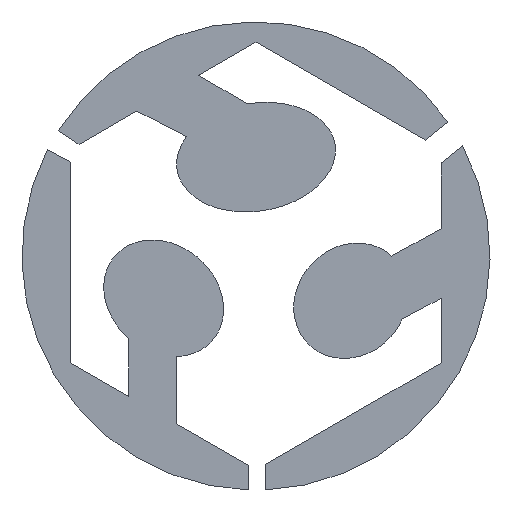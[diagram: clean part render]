
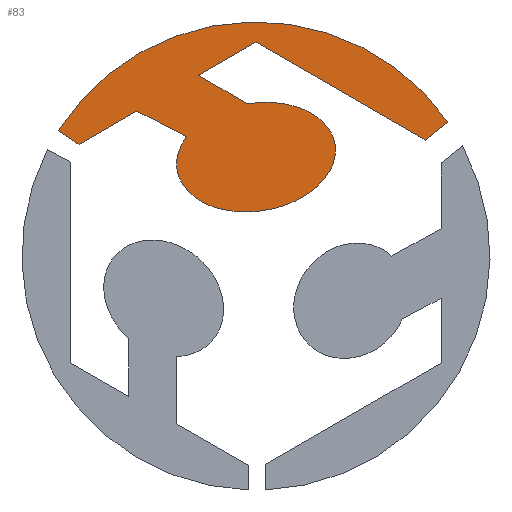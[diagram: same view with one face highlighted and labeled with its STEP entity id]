
A CAD part, front view. The second image highlights one B-rep face of the part: STEP entity #83.
In plain terms, the highlighted planar face has unit normal (0, -1, 0).
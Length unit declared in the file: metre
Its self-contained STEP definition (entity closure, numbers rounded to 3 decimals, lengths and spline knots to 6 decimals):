
#83 = ADVANCED_FACE( '', ( #182 ), #183, .T. );
#182 = FACE_OUTER_BOUND( '', #299, .T. );
#183 = PLANE( '', #300 );
#299 = EDGE_LOOP( '', ( #440, #441, #442, #443, #444, #445, #446, #447, #448 ) );
#300 = AXIS2_PLACEMENT_3D( '', #449, #450, #451 );
#440 = ORIENTED_EDGE( '', *, *, #707, .F. );
#441 = ORIENTED_EDGE( '', *, *, #708, .F. );
#442 = ORIENTED_EDGE( '', *, *, #704, .F. );
#443 = ORIENTED_EDGE( '', *, *, #697, .F. );
#444 = ORIENTED_EDGE( '', *, *, #701, .T. );
#445 = ORIENTED_EDGE( '', *, *, #670, .T. );
#446 = ORIENTED_EDGE( '', *, *, #709, .F. );
#447 = ORIENTED_EDGE( '', *, *, #710, .T. );
#448 = ORIENTED_EDGE( '', *, *, #711, .T. );
#449 = CARTESIAN_POINT( '', ( -0.000015, -0.015, 0.000019 ) );
#450 = DIRECTION( '', ( 0., -1., 0. ) );
#451 = DIRECTION( '', ( 1., 0., 0. ) );
#670 = EDGE_CURVE( '', #796, #794, #797, .T. );
#697 = EDGE_CURVE( '', #836, #838, #839, .T. );
#701 = EDGE_CURVE( '', #836, #796, #843, .T. );
#704 = EDGE_CURVE( '', #838, #847, #848, .T. );
#707 = EDGE_CURVE( '', #851, #852, #853, .T. );
#708 = EDGE_CURVE( '', #847, #851, #854, .T. );
#709 = EDGE_CURVE( '', #855, #794, #856, .T. );
#710 = EDGE_CURVE( '', #855, #857, #858, .T. );
#711 = EDGE_CURVE( '', #857, #852, #859, .T. );
#794 = VERTEX_POINT( '', #963 );
#796 = VERTEX_POINT( '', #966 );
#797 = LINE( '', #967, #968 );
#836 = VERTEX_POINT( '', #1022 );
#838 = VERTEX_POINT( '', #1025 );
#839 = LINE( '', #1026, #1027 );
#843 = CIRCLE( '', #1032, 0.073368 );
#847 = VERTEX_POINT( '', #1037 );
#848 = LINE( '', #1038, #1039 );
#851 = VERTEX_POINT( '', #1043 );
#852 = VERTEX_POINT( '', #1044 );
#853 = LINE( '', #1045, #1046 );
#854 = LINE( '', #1047, #1048 );
#855 = VERTEX_POINT( '', #1049 );
#856 = LINE( '', #1050, #1051 );
#857 = VERTEX_POINT( '', #1052 );
#858 = LINE( '', #1053, #1054 );
#859 = ELLIPSE( '', #1055, 0.025075, 0.016939 );
#963 = CARTESIAN_POINT( '', ( -0.055476, -0.015, 0.034989 ) );
#966 = CARTESIAN_POINT( '', ( -0.061975, -0.015, 0.039291 ) );
#967 = CARTESIAN_POINT( '', ( -0.058726, -0.015, 0.03714 ) );
#968 = VECTOR( '', #1197, 1. );
#1022 = CARTESIAN_POINT( '', ( 0.060178, -0.015, 0.041948 ) );
#1025 = CARTESIAN_POINT( '', ( 0.053152, -0.015, 0.03633 ) );
#1026 = CARTESIAN_POINT( '', ( 0.056665, -0.015, 0.039139 ) );
#1027 = VECTOR( '', #1220, 1. );
#1032 = AXIS2_PLACEMENT_3D( '', #1225, #1226, #1227 );
#1037 = CARTESIAN_POINT( '', ( 0., -0.015, 0.067018 ) );
#1038 = CARTESIAN_POINT( '', ( 0.026576, -0.015, 0.051674 ) );
#1039 = VECTOR( '', #1229, 1. );
#1043 = CARTESIAN_POINT( '', ( -0.018007, -0.015, 0.056622 ) );
#1044 = CARTESIAN_POINT( '', ( -0.002701, -0.015, 0.047723 ) );
#1045 = CARTESIAN_POINT( '', ( -0.010354, -0.015, 0.052172 ) );
#1046 = VECTOR( '', #1231, 1. );
#1047 = CARTESIAN_POINT( '', ( -0.009004, -0.015, 0.06182 ) );
#1048 = VECTOR( '', #1232, 1. );
#1049 = CARTESIAN_POINT( '', ( -0.03735, -0.015, 0.045454 ) );
#1050 = CARTESIAN_POINT( '', ( -0.046413, -0.015, 0.040221 ) );
#1051 = VECTOR( '', #1233, 1. );
#1052 = CARTESIAN_POINT( '', ( -0.021739, -0.015, 0.037432 ) );
#1053 = CARTESIAN_POINT( '', ( -0.029545, -0.015, 0.041443 ) );
#1054 = VECTOR( '', #1234, 1. );
#1055 = AXIS2_PLACEMENT_3D( '', #1235, #1236, #1237 );
#1197 = DIRECTION( '', ( 0.834, 0., -0.552 ) );
#1220 = DIRECTION( '', ( -0.781, 0., -0.625 ) );
#1225 = CARTESIAN_POINT( '', ( -0.000015, -0.015, 0. ) );
#1226 = DIRECTION( '', ( 0., -1., 0. ) );
#1227 = DIRECTION( '', ( 0., 0., -1. ) );
#1229 = DIRECTION( '', ( -0.866, 0., 0.5 ) );
#1231 = DIRECTION( '', ( 0.865, 0., -0.503 ) );
#1232 = DIRECTION( '', ( -0.866, 0., -0.5 ) );
#1233 = DIRECTION( '', ( -0.866, 0., -0.5 ) );
#1234 = DIRECTION( '', ( 0.889, 0., -0.457 ) );
#1235 = CARTESIAN_POINT( '', ( 0., -0.015, 0.031001 ) );
#1236 = DIRECTION( '', ( 0., -1., 0. ) );
#1237 = DIRECTION( '', ( -0.987, 0., -0.159 ) );
